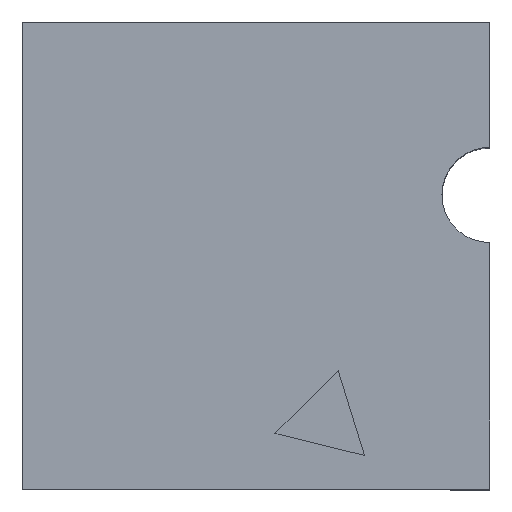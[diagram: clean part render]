
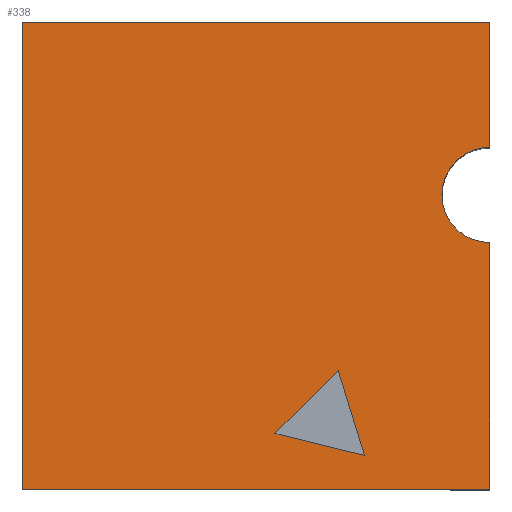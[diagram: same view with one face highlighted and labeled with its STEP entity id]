
A CAD part, top view. The second image highlights one B-rep face of the part: STEP entity #338.
In plain terms, the highlighted planar face has unit normal (0, 0, 1).
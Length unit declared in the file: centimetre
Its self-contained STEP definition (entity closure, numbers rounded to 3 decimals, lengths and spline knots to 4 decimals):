
#1 = CARTESIAN_POINT ( 'NONE',  ( 1000., 629.9142, 1000. ) ) ;
#11 = LINE ( 'NONE', #611, #987 ) ;
#44 = ORIENTED_EDGE ( 'NONE', *, *, #823, .F. ) ;
#51 = VECTOR ( 'NONE', #1027, 100. ) ;
#53 = LINE ( 'NONE', #383, #229 ) ;
#55 = ORIENTED_EDGE ( 'NONE', *, *, #523, .T. ) ;
#82 = ORIENTED_EDGE ( 'NONE', *, *, #783, .T. ) ;
#100 = DIRECTION ( 'NONE',  ( 0., 1., 0. ) ) ;
#101 = EDGE_CURVE ( 'NONE', #635, #624, #948, .T. ) ;
#107 = VERTEX_POINT ( 'NONE', #799 ) ;
#109 = LINE ( 'NONE', #348, #111 ) ;
#111 = VECTOR ( 'NONE', #100, 100. ) ;
#118 = EDGE_CURVE ( 'NONE', #679, #107, #696, .T. ) ;
#125 = DIRECTION ( 'NONE',  ( 1., 0., 0. ) ) ;
#129 = VECTOR ( 'NONE', #125, 100. ) ;
#166 = CARTESIAN_POINT ( 'NONE',  ( 675.6988, 254.6845, 1000. ) ) ;
#173 = CARTESIAN_POINT ( 'NONE',  ( 1000., 1000., 1000. ) ) ;
#176 = CARTESIAN_POINT ( 'NONE',  ( 0., 1000., 1000. ) ) ;
#186 = ORIENTED_EDGE ( 'NONE', *, *, #101, .T. ) ;
#225 = CARTESIAN_POINT ( 'NONE',  ( 1000., 629.9142, 1000. ) ) ;
#229 = VECTOR ( 'NONE', #547, 100. ) ;
#233 = VERTEX_POINT ( 'NONE', #749 ) ;
#236 = CARTESIAN_POINT ( 'NONE',  ( 0., 1000., 1000. ) ) ;
#246 = VECTOR ( 'NONE', #426, 100. ) ;
#256 = DIRECTION ( 'NONE',  ( 0., 0., -1. ) ) ;
#266 = CARTESIAN_POINT ( 'NONE',  ( 0., 0., 1000. ) ) ;
#280 = PLANE ( 'NONE',  #392 ) ;
#299 = EDGE_LOOP ( 'NONE', ( #788, #55, #745, #1023, #82, #186, #309 ) ) ;
#304 = VERTEX_POINT ( 'NONE', #353 ) ;
#309 = ORIENTED_EDGE ( 'NONE', *, *, #406, .T. ) ;
#329 = AXIS2_PLACEMENT_3D ( 'NONE', #1, #256, #898 ) ;
#338 = ADVANCED_FACE ( 'NONE', ( #525, #773 ), #280, .T. ) ;
#340 = DIRECTION ( 'NONE',  ( -0.297, 0.955, 0. ) ) ;
#348 = CARTESIAN_POINT ( 'NONE',  ( 1000., 1000., 1000. ) ) ;
#353 = CARTESIAN_POINT ( 'NONE',  ( 732.3941, 72.1201, 1000. ) ) ;
#374 = CARTESIAN_POINT ( 'NONE',  ( 1000., 1000., 1000. ) ) ;
#383 = CARTESIAN_POINT ( 'NONE',  ( 540.629, 119.6148, 1000. ) ) ;
#390 = EDGE_CURVE ( 'NONE', #943, #1073, #109, .T. ) ;
#392 = AXIS2_PLACEMENT_3D ( 'NONE', #266, #613, #779 ) ;
#406 = EDGE_CURVE ( 'NONE', #624, #233, #1009, .T. ) ;
#426 = DIRECTION ( 'NONE',  ( -1., 0., 0. ) ) ;
#462 = CARTESIAN_POINT ( 'NONE',  ( 1000., 731.8471, 1000. ) ) ;
#472 = CARTESIAN_POINT ( 'NONE',  ( 0., 0., 1000. ) ) ;
#478 = VERTEX_POINT ( 'NONE', #712 ) ;
#523 = EDGE_CURVE ( 'NONE', #478, #943, #817, .T. ) ;
#525 = FACE_OUTER_BOUND ( 'NONE', #299, .T. ) ;
#547 = DIRECTION ( 'NONE',  ( 0.971, -0.24, 0. ) ) ;
#548 = DIRECTION ( 'NONE',  ( 0., 0., -1. ) ) ;
#588 = CIRCLE ( 'NONE', #329, 101.9329 ) ;
#594 = EDGE_CURVE ( 'NONE', #233, #478, #588, .T. ) ;
#611 = CARTESIAN_POINT ( 'NONE',  ( 732.3941, 72.1201, 1000. ) ) ;
#613 = DIRECTION ( 'NONE',  ( 0., 0., 1. ) ) ;
#621 = DIRECTION ( 'NONE',  ( 0., 1., 0. ) ) ;
#624 = VERTEX_POINT ( 'NONE', #824 ) ;
#630 = ORIENTED_EDGE ( 'NONE', *, *, #118, .F. ) ;
#635 = VERTEX_POINT ( 'NONE', #830 ) ;
#636 = VERTEX_POINT ( 'NONE', #236 ) ;
#673 = LINE ( 'NONE', #176, #246 ) ;
#675 = LINE ( 'NONE', #697, #51 ) ;
#679 = VERTEX_POINT ( 'NONE', #166 ) ;
#696 = LINE ( 'NONE', #1048, #740 ) ;
#697 = CARTESIAN_POINT ( 'NONE',  ( 0., 1000., 1000. ) ) ;
#703 = EDGE_CURVE ( 'NONE', #1073, #636, #673, .T. ) ;
#712 = CARTESIAN_POINT ( 'NONE',  ( 898.0671, 629.9142, 1000. ) ) ;
#740 = VECTOR ( 'NONE', #936, 100. ) ;
#745 = ORIENTED_EDGE ( 'NONE', *, *, #390, .T. ) ;
#749 = CARTESIAN_POINT ( 'NONE',  ( 1000., 527.9813, 1000. ) ) ;
#760 = AXIS2_PLACEMENT_3D ( 'NONE', #225, #548, #947 ) ;
#773 = FACE_BOUND ( 'NONE', #1050, .T. ) ;
#779 = DIRECTION ( 'NONE',  ( 1., 0., 0. ) ) ;
#783 = EDGE_CURVE ( 'NONE', #636, #635, #675, .T. ) ;
#788 = ORIENTED_EDGE ( 'NONE', *, *, #594, .T. ) ;
#799 = CARTESIAN_POINT ( 'NONE',  ( 540.629, 119.6148, 1000. ) ) ;
#809 = EDGE_CURVE ( 'NONE', #304, #679, #11, .T. ) ;
#810 = VECTOR ( 'NONE', #621, 100. ) ;
#817 = CIRCLE ( 'NONE', #760, 101.9329 ) ;
#821 = ORIENTED_EDGE ( 'NONE', *, *, #809, .F. ) ;
#823 = EDGE_CURVE ( 'NONE', #107, #304, #53, .T. ) ;
#824 = CARTESIAN_POINT ( 'NONE',  ( 1000., 0., 1000. ) ) ;
#830 = CARTESIAN_POINT ( 'NONE',  ( 0., 0., 1000. ) ) ;
#898 = DIRECTION ( 'NONE',  ( -1., 0., 0. ) ) ;
#936 = DIRECTION ( 'NONE',  ( -0.707, -0.707, 0. ) ) ;
#943 = VERTEX_POINT ( 'NONE', #462 ) ;
#947 = DIRECTION ( 'NONE',  ( -1., 0., 0. ) ) ;
#948 = LINE ( 'NONE', #472, #129 ) ;
#987 = VECTOR ( 'NONE', #340, 100. ) ;
#1009 = LINE ( 'NONE', #374, #810 ) ;
#1023 = ORIENTED_EDGE ( 'NONE', *, *, #703, .T. ) ;
#1027 = DIRECTION ( 'NONE',  ( 0., -1., 0. ) ) ;
#1048 = CARTESIAN_POINT ( 'NONE',  ( 675.6988, 254.6845, 1000. ) ) ;
#1050 = EDGE_LOOP ( 'NONE', ( #821, #44, #630 ) ) ;
#1073 = VERTEX_POINT ( 'NONE', #173 ) ;
